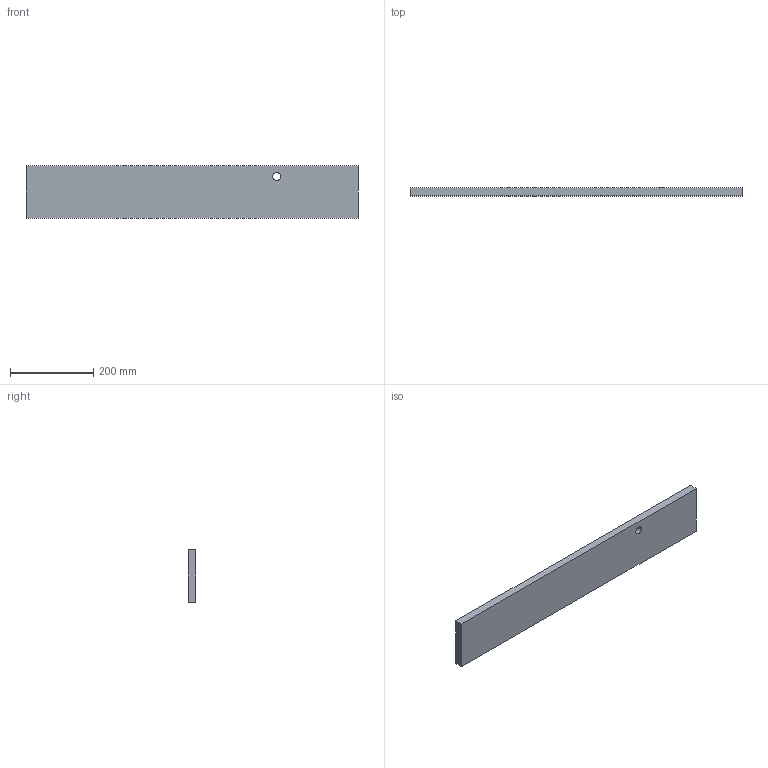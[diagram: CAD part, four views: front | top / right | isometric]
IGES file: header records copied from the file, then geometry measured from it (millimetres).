
Start section:  PTC IGES file: l5_33w_keyboard.igs
Global section: file name: l5_33w_keyboard.igs; native system: Creo Parametric by Parametric Technology Corporation; preprocessor: 2014310; author: apappas; organization: Unknown; date: 20150316.071555; units: inch
Bounding box: 796.92 x 19.05 x 125.41 mm (x, y, z)
Volume: 1858179.6 mm3; surface area: 241695.5 mm2
Topology: 1 solids, 1 shells, 35 faces, 72 edges, 48 vertices
Faces by surface type: bspline 35
